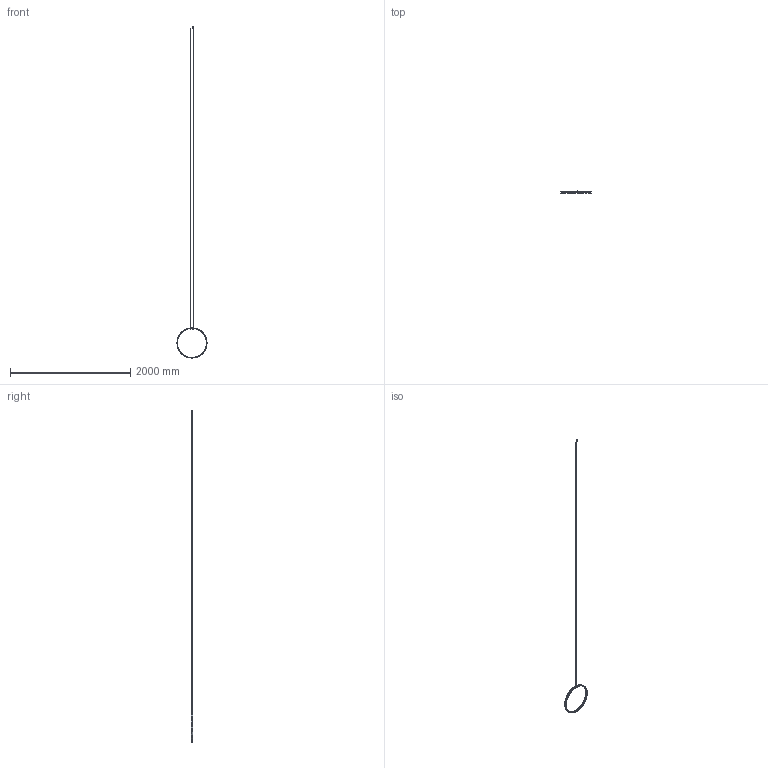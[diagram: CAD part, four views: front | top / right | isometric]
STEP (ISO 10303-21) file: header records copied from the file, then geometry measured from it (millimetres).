
FILE_DESCRIPTION(/* description */ (''),/* implementation_level */ '2;1');
FILE_NAME(/* name */ 'Zero Round Vertical M154__.050',/* time_stamp */ '2025-05-28T09:41:11+02:00',/* author */ (''),/* organization */ (''),/* preprocessor_version */ 'ST-DEVELOPER v16.5',/* originating_system */ '',/* authorisation */ '');
FILE_SCHEMA (('AUTOMOTIVE_DESIGN'));
Length unit declared in the file: millimetre
Products named in the file (9): Document; 3200.0200004.00 (copertura giunzione con foro M3 ACC 60,2x19mm H 23mm
 sp 1)_3209.0200004.00; 3300.0147000.00 (profilo curvo Zero Round Vertical ALL 7,7x30mm D est.
 500mm)_3306.0147360.00; 3100.0025000.00 (schermo estruso Giplast 09PE79 PC 19x3,8mm per curva
 D int. 482mm)_3101.0025360.98; 5402.0001000.00 (fune ACC 19 fili D 1,2mm con cilindro terminale 3x3m
m)_5402.0001500.00; 4501.0009000.00 (cavo schermato FR5FH2R-FX 1xAWG20 trasparente)_4501.
0009500.00; 1800.0017001.00 (dispositivo sospensione meccanica singola M79D)_Volu
me; 5200.0002000.00 (dispositivo regolazione fune OTTONE nichelato con in
nesto maschio M10 L 14mm)_5200.0002000.00; 3300.0298000.00 (manicotto per sospensione singola ALL D 20mm H 32mm 
con foro M10x1)_3302.0298000.00
Assembly tree (8 placements, depth 3):
  Document
    3200.0200004.00 (copertura giunzione con foro M3 ACC 60,2x19mm H 23mm
 sp 1)_3209.0200004.00
    3300.0147000.00 (profilo curvo Zero Round Vertical ALL 7,7x30mm D est.
 500mm)_3306.0147360.00
    3100.0025000.00 (schermo estruso Giplast 09PE79 PC 19x3,8mm per curva
 D int. 482mm)_3101.0025360.98
    5402.0001000.00 (fune ACC 19 fili D 1,2mm con cilindro terminale 3x3m
m)_5402.0001500.00
    4501.0009000.00 (cavo schermato FR5FH2R-FX 1xAWG20 trasparente)_4501.
0009500.00
    1800.0017001.00 (dispositivo sospensione meccanica singola M79D)_Volu
me
      5200.0002000.00 (dispositivo regolazione fune OTTONE nichelato con in
nesto maschio M10 L 14mm)_5200.0002000.00
      3300.0298000.00 (manicotto per sospensione singola ALL D 20mm H 32mm 
con foro M10x1)_3302.0298000.00
Bounding box: 500 x 30 x 5525.94 mm (x, y, z)
Volume: 293472.4 mm3; surface area: 359809 mm2
Topology: 10 solids, 10 shells, 349 faces, 848 edges, 522 vertices
Faces by surface type: bspline 280, plane 69
Entity records: 22384 total; most frequent: CARTESIAN_POINT 17277, ORIENTED_EDGE 1696, EDGE_CURVE 848, VERTEX_POINT 522, EDGE_LOOP 370, B_SPLINE_CURVE_WITH_KNOTS 368, ADVANCED_FACE 349, FACE_OUTER_BOUND 349
